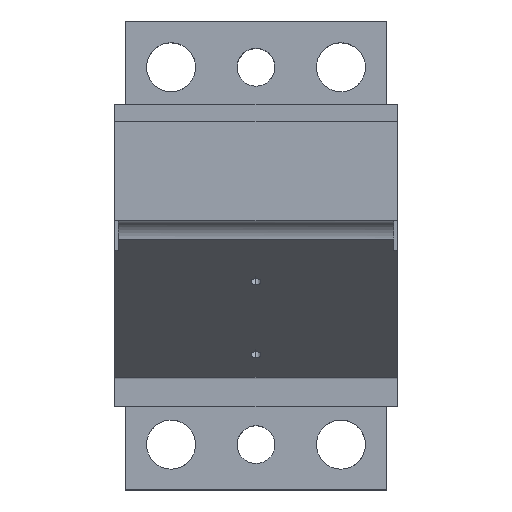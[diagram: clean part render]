
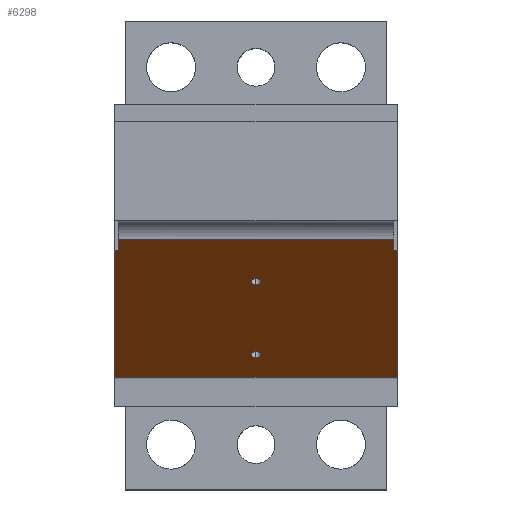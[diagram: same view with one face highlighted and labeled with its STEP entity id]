
A CAD part, top view. The second image highlights one B-rep face of the part: STEP entity #6298.
In plain terms, the highlighted planar face has unit normal (0, -0.766, 0.643).
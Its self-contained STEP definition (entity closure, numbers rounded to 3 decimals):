
#185 = EDGE_CURVE ( 'NONE', #19147, #523, #19515, .T. ) ;
#523 = VERTEX_POINT ( 'NONE', #16033 ) ;
#619 = ORIENTED_EDGE ( 'NONE', *, *, #10534, .T. ) ;
#790 = ORIENTED_EDGE ( 'NONE', *, *, #1502, .F. ) ;
#937 = CARTESIAN_POINT ( 'NONE',  ( -37.5, -7.836, -20. ) ) ;
#1012 = DIRECTION ( 'NONE',  ( -1., 0., 0. ) ) ;
#1028 = DIRECTION ( 'NONE',  ( 1., 0., 0. ) ) ;
#1502 = EDGE_CURVE ( 'NONE', #13450, #15666, #17981, .T. ) ;
#1736 = EDGE_CURVE ( 'NONE', #15631, #5070, #7928, .T. ) ;
#2035 = EDGE_CURVE ( 'NONE', #523, #19147, #5175, .T. ) ;
#2145 = CARTESIAN_POINT ( 'NONE',  ( 37.5, -41.5, -60.12 ) ) ;
#2551 = DIRECTION ( 'NONE',  ( 0., 0.643, 0.766 ) ) ;
#2613 = PLANE ( 'NONE',  #15739 ) ;
#2888 = ORIENTED_EDGE ( 'NONE', *, *, #185, .T. ) ;
#3110 = ORIENTED_EDGE ( 'NONE', *, *, #2035, .T. ) ;
#3200 = CARTESIAN_POINT ( 'NONE',  ( 0., -35.5, -52.969 ) ) ;
#3526 = CARTESIAN_POINT ( 'NONE',  ( 0., -16.217, -29.987 ) ) ;
#3719 = CARTESIAN_POINT ( 'NONE',  ( 36.5, -7.836, -20. ) ) ;
#3971 = DIRECTION ( 'NONE',  ( 1., 0., 0. ) ) ;
#4003 = CIRCLE ( 'NONE', #16291, 1.25 ) ;
#4047 = B_SPLINE_CURVE_WITH_KNOTS ( 'NONE', 3,
 ( #5821, #11762, #15378, #2145 ),
 .UNSPECIFIED., .F., .F.,
 ( 4, 4 ),
 ( 0., 1. ),
 .UNSPECIFIED. ) ;
#4058 = ORIENTED_EDGE ( 'NONE', *, *, #12059, .F. ) ;
#4238 = DIRECTION ( 'NONE',  ( -1., 0., 0. ) ) ;
#4320 = CARTESIAN_POINT ( 'NONE',  ( 100., -42.5, -61.311 ) ) ;
#4791 = DIRECTION ( 'NONE',  ( 0., 0.766, -0.643 ) ) ;
#4799 = ORIENTED_EDGE ( 'NONE', *, *, #11546, .F. ) ;
#5066 = CARTESIAN_POINT ( 'NONE',  ( 0., -36.304, -53.926 ) ) ;
#5070 = VERTEX_POINT ( 'NONE', #15262 ) ;
#5175 = CIRCLE ( 'NONE', #10756, 1.25 ) ;
#5268 = EDGE_CURVE ( 'NONE', #17194, #5838, #10877, .T. ) ;
#5482 = DIRECTION ( 'NONE',  ( 0., 0.766, -0.643 ) ) ;
#5483 = B_SPLINE_CURVE_WITH_KNOTS ( 'NONE', 3,
 ( #19217, #14419, #17669, #7078 ),
 .UNSPECIFIED., .F., .F.,
 ( 4, 4 ),
 ( 0., 1. ),
 .UNSPECIFIED. ) ;
#5523 = CARTESIAN_POINT ( 'NONE',  ( -37.5, -19.057, -33.373 ) ) ;
#5641 = EDGE_CURVE ( 'NONE', #17194, #13450, #8126, .T. ) ;
#5821 = CARTESIAN_POINT ( 'NONE',  ( 37.5, -7.836, -20. ) ) ;
#5838 = VERTEX_POINT ( 'NONE', #12602 ) ;
#6298 = ADVANCED_FACE ( 'NONE', ( #11850, #10110, #10346 ), #2613, .F. ) ;
#7078 = CARTESIAN_POINT ( 'NONE',  ( -37.5, -41.5, -60.12 ) ) ;
#7170 = CARTESIAN_POINT ( 'NONE',  ( -37.5, -41.5, -60.12 ) ) ;
#7928 = CIRCLE ( 'NONE', #9274, 1.25 ) ;
#8126 = LINE ( 'NONE', #10349, #10366 ) ;
#8658 = CARTESIAN_POINT ( 'NONE',  ( -36.5, -6.418, -18.31 ) ) ;
#8665 = VECTOR ( 'NONE', #3971, 1000. ) ;
#9274 = AXIS2_PLACEMENT_3D ( 'NONE', #10237, #5482, #19712 ) ;
#9584 = DIRECTION ( 'NONE',  ( 0., 0.766, -0.643 ) ) ;
#10110 = FACE_BOUND ( 'NONE', #12098, .T. ) ;
#10237 = CARTESIAN_POINT ( 'NONE',  ( 0., -16.217, -29.987 ) ) ;
#10346 = FACE_BOUND ( 'NONE', #10824, .T. ) ;
#10349 = CARTESIAN_POINT ( 'NONE',  ( 36.5, -6.418, -18.31 ) ) ;
#10366 = VECTOR ( 'NONE', #14823, 1000. ) ;
#10503 = ORIENTED_EDGE ( 'NONE', *, *, #12057, .F. ) ;
#10534 = EDGE_CURVE ( 'NONE', #5070, #15631, #4003, .T. ) ;
#10756 = AXIS2_PLACEMENT_3D ( 'NONE', #17514, #9584, #12684 ) ;
#10824 = EDGE_LOOP ( 'NONE', ( #619, #20562 ) ) ;
#10872 = AXIS2_PLACEMENT_3D ( 'NONE', #3200, #19045, #14382 ) ;
#10877 = LINE ( 'NONE', #12123, #16125 ) ;
#11546 = EDGE_CURVE ( 'NONE', #12570, #16049, #5483, .T. ) ;
#11745 = CARTESIAN_POINT ( 'NONE',  ( -37., -7.836, -20. ) ) ;
#11762 = CARTESIAN_POINT ( 'NONE',  ( 37.5, -19.057, -33.373 ) ) ;
#11850 = FACE_OUTER_BOUND ( 'NONE', #12525, .T. ) ;
#11873 = ORIENTED_EDGE ( 'NONE', *, *, #18161, .F. ) ;
#12057 = EDGE_CURVE ( 'NONE', #19317, #5838, #12500, .T. ) ;
#12059 = EDGE_CURVE ( 'NONE', #16049, #19574, #12754, .T. ) ;
#12098 = EDGE_LOOP ( 'NONE', ( #3110, #2888 ) ) ;
#12123 = CARTESIAN_POINT ( 'NONE',  ( 0., -5., -16.62 ) ) ;
#12500 = LINE ( 'NONE', #8658, #13239 ) ;
#12525 = EDGE_LOOP ( 'NONE', ( #4799, #11873, #790, #14177, #14769, #10503, #19723, #4058 ) ) ;
#12570 = VERTEX_POINT ( 'NONE', #18383 ) ;
#12602 = CARTESIAN_POINT ( 'NONE',  ( -36.5, -5., -16.62 ) ) ;
#12684 = DIRECTION ( 'NONE',  ( 1., 0., 0. ) ) ;
#12754 = B_SPLINE_CURVE_WITH_KNOTS ( 'NONE', 3,
 ( #7170, #15216, #5523, #16712 ),
 .UNSPECIFIED., .F., .F.,
 ( 4, 4 ),
 ( 0., 1. ),
 .UNSPECIFIED. ) ;
#12801 = CARTESIAN_POINT ( 'NONE',  ( -37.5, -41.5, -60.12 ) ) ;
#13239 = VECTOR ( 'NONE', #2551, 1000. ) ;
#13450 = VERTEX_POINT ( 'NONE', #3719 ) ;
#13473 = EDGE_CURVE ( 'NONE', #19574, #19317, #16459, .T. ) ;
#14177 = ORIENTED_EDGE ( 'NONE', *, *, #5641, .F. ) ;
#14382 = DIRECTION ( 'NONE',  ( 1., 0., 0. ) ) ;
#14419 = CARTESIAN_POINT ( 'NONE',  ( 12.5, -41.5, -60.12 ) ) ;
#14769 = ORIENTED_EDGE ( 'NONE', *, *, #5268, .T. ) ;
#14823 = DIRECTION ( 'NONE',  ( 0., -0.643, -0.766 ) ) ;
#14892 = CARTESIAN_POINT ( 'NONE',  ( 36.5, -5., -16.62 ) ) ;
#15216 = CARTESIAN_POINT ( 'NONE',  ( -37.5, -30.279, -46.747 ) ) ;
#15262 = CARTESIAN_POINT ( 'NONE',  ( 0., -15.413, -29.03 ) ) ;
#15297 = CARTESIAN_POINT ( 'NONE',  ( 0., -17.02, -30.945 ) ) ;
#15333 = CARTESIAN_POINT ( 'NONE',  ( 37., -7.836, -20. ) ) ;
#15378 = CARTESIAN_POINT ( 'NONE',  ( 37.5, -30.279, -46.747 ) ) ;
#15631 = VERTEX_POINT ( 'NONE', #15297 ) ;
#15666 = VERTEX_POINT ( 'NONE', #16949 ) ;
#15739 = AXIS2_PLACEMENT_3D ( 'NONE', #4320, #20423, #1012 ) ;
#15969 = DIRECTION ( 'NONE',  ( 1., 0., 0. ) ) ;
#16033 = CARTESIAN_POINT ( 'NONE',  ( 0., -34.697, -52.011 ) ) ;
#16049 = VERTEX_POINT ( 'NONE', #12801 ) ;
#16125 = VECTOR ( 'NONE', #4238, 1000. ) ;
#16291 = AXIS2_PLACEMENT_3D ( 'NONE', #3526, #4791, #15969 ) ;
#16459 = LINE ( 'NONE', #11745, #18004 ) ;
#16712 = CARTESIAN_POINT ( 'NONE',  ( -37.5, -7.836, -20. ) ) ;
#16949 = CARTESIAN_POINT ( 'NONE',  ( 37.5, -7.836, -20. ) ) ;
#17194 = VERTEX_POINT ( 'NONE', #14892 ) ;
#17514 = CARTESIAN_POINT ( 'NONE',  ( 0., -35.5, -52.969 ) ) ;
#17669 = CARTESIAN_POINT ( 'NONE',  ( -12.5, -41.5, -60.12 ) ) ;
#17981 = LINE ( 'NONE', #15333, #8665 ) ;
#18004 = VECTOR ( 'NONE', #1028, 1000. ) ;
#18160 = CARTESIAN_POINT ( 'NONE',  ( -36.5, -7.836, -20. ) ) ;
#18161 = EDGE_CURVE ( 'NONE', #15666, #12570, #4047, .T. ) ;
#18383 = CARTESIAN_POINT ( 'NONE',  ( 37.5, -41.5, -60.12 ) ) ;
#19045 = DIRECTION ( 'NONE',  ( 0., 0.766, -0.643 ) ) ;
#19147 = VERTEX_POINT ( 'NONE', #5066 ) ;
#19217 = CARTESIAN_POINT ( 'NONE',  ( 37.5, -41.5, -60.12 ) ) ;
#19317 = VERTEX_POINT ( 'NONE', #18160 ) ;
#19515 = CIRCLE ( 'NONE', #10872, 1.25 ) ;
#19574 = VERTEX_POINT ( 'NONE', #937 ) ;
#19712 = DIRECTION ( 'NONE',  ( 1., 0., 0. ) ) ;
#19723 = ORIENTED_EDGE ( 'NONE', *, *, #13473, .F. ) ;
#20423 = DIRECTION ( 'NONE',  ( 0., 0.766, -0.643 ) ) ;
#20562 = ORIENTED_EDGE ( 'NONE', *, *, #1736, .T. ) ;
